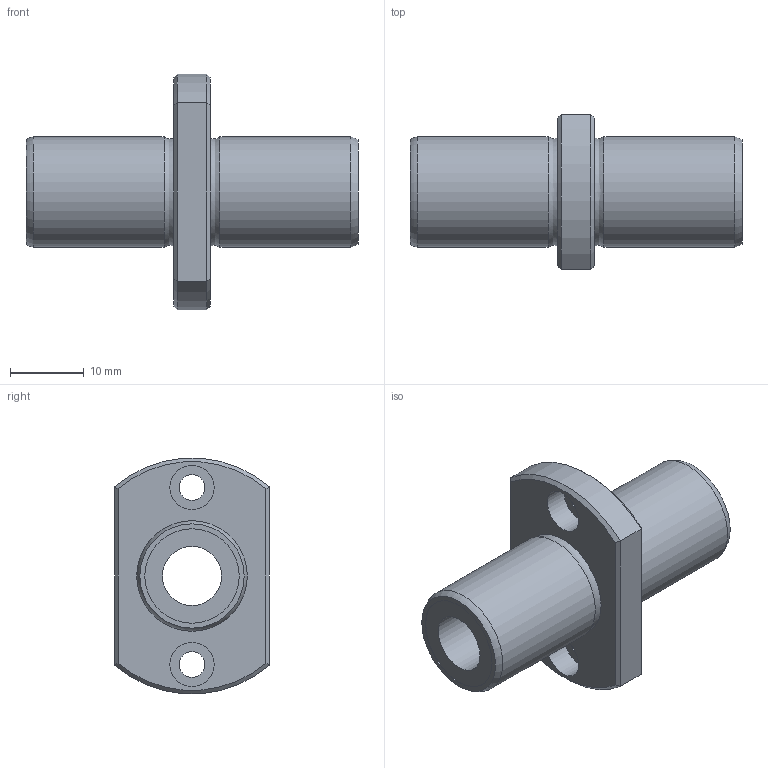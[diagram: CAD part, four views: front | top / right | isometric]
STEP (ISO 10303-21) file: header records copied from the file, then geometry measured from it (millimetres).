
FILE_DESCRIPTION((''),'2;1');
FILE_NAME('D:\製品 (図面)\カタログ用3D\リニアベアリング関連\STEP形式\LFDTC\LFDTC8.stp','2010-06-04T08:39:02',('Tsuchiya'),(''),'Autodesk Inventor 10','Autodesk Inventor 10','');
FILE_SCHEMA(('AUTOMOTIVE_DESIGN { 1 0 10303 214 1 1 1 1 }'));
Length unit declared in the file: millimetre
Products named in the file (1): LFDTC8
Bounding box: 45 x 21 x 31.9 mm (x, y, z)
Volume: 7607.9 mm3; surface area: 4683.9 mm2
Topology: 1 solids, 1 shells, 33 faces, 63 edges, 38 vertices
Faces by surface type: plane 14, cylinder 11, cone 4, torus 2, bspline 2
Full cylindrical faces by diameter (mm): 3.5 x2, 6 x2, 8 x1, 12.8 x2, 15 x2
Entity records: 925 total; most frequent: CARTESIAN_POINT 270, DIRECTION 136, ORIENTED_EDGE 100, AXIS2_PLACEMENT_3D 62, EDGE_LOOP 58, EDGE_CURVE 50, VERTEX_POINT 38, FACE_OUTER_BOUND 33
